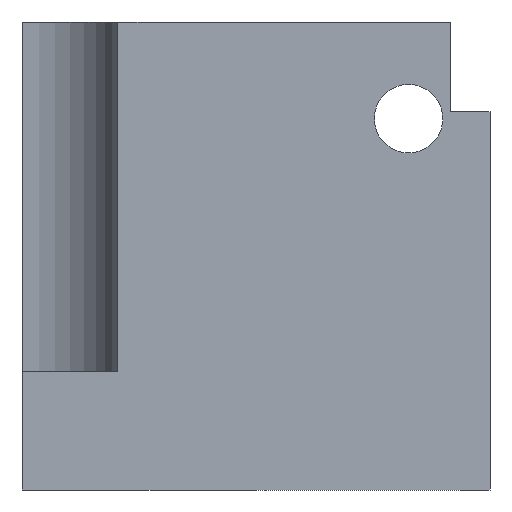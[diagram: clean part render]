
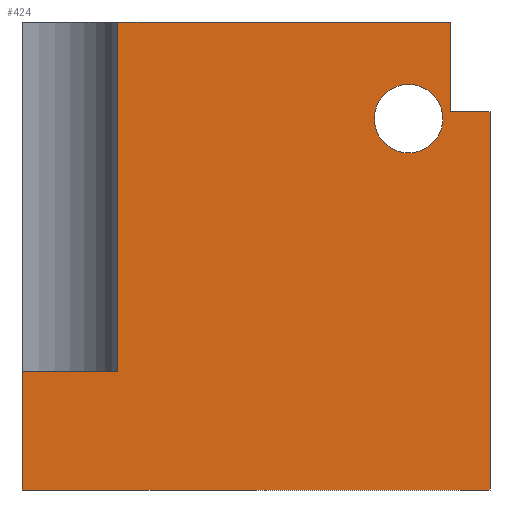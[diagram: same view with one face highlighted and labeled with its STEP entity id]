
A CAD part, left-side view. The second image highlights one B-rep face of the part: STEP entity #424.
In plain terms, the highlighted planar face has unit normal (-1, 0, 0).
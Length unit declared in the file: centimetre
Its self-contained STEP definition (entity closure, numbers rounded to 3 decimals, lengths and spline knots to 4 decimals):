
#16 = CARTESIAN_POINT ( 'NONE',  ( 0., 794.9523, 252.4905 ) ) ;
#18 = VERTEX_POINT ( 'NONE', #407 ) ;
#31 = DIRECTION ( 'NONE',  ( 0., -1., 0. ) ) ;
#34 = VECTOR ( 'NONE', #121, 100. ) ;
#36 = ORIENTED_EDGE ( 'NONE', *, *, #382, .T. ) ;
#53 = DIRECTION ( 'NONE',  ( 0., 0., -1. ) ) ;
#66 = CARTESIAN_POINT ( 'NONE',  ( 0., 1000., 0. ) ) ;
#68 = ORIENTED_EDGE ( 'NONE', *, *, #432, .F. ) ;
#72 = VERTEX_POINT ( 'NONE', #625 ) ;
#95 = ORIENTED_EDGE ( 'NONE', *, *, #324, .T. ) ;
#105 = VECTOR ( 'NONE', #31, 100. ) ;
#121 = DIRECTION ( 'NONE',  ( 0., 0., -1. ) ) ;
#126 = DIRECTION ( 'NONE',  ( 0., 0., -1. ) ) ;
#128 = DIRECTION ( 'NONE',  ( 0., -1., 0. ) ) ;
#130 = ORIENTED_EDGE ( 'NONE', *, *, #392, .F. ) ;
#131 = CARTESIAN_POINT ( 'NONE',  ( 0., 173.9357, 793.375 ) ) ;
#135 = CIRCLE ( 'NONE', #229, 73.1217 ) ;
#136 = CARTESIAN_POINT ( 'NONE',  ( 0., 1000., 252.4905 ) ) ;
#162 = VECTOR ( 'NONE', #128, 100. ) ;
#181 = PLANE ( 'NONE',  #622 ) ;
#186 = DIRECTION ( 'NONE',  ( 0., 0., -1. ) ) ;
#190 = DIRECTION ( 'NONE',  ( 0., 0., -1. ) ) ;
#193 = VERTEX_POINT ( 'NONE', #474 ) ;
#229 = AXIS2_PLACEMENT_3D ( 'NONE', #131, #462, #190 ) ;
#231 = DIRECTION ( 'NONE',  ( 0., -1., 0. ) ) ;
#248 = CARTESIAN_POINT ( 'NONE',  ( 0., 84.1514, 1000. ) ) ;
#251 = VECTOR ( 'NONE', #348, 100. ) ;
#257 = LINE ( 'NONE', #367, #496 ) ;
#259 = VERTEX_POINT ( 'NONE', #606 ) ;
#276 = VERTEX_POINT ( 'NONE', #485 ) ;
#284 = FACE_BOUND ( 'NONE', #299, .T. ) ;
#295 = FACE_OUTER_BOUND ( 'NONE', #649, .T. ) ;
#298 = CARTESIAN_POINT ( 'NONE',  ( 0., 1000., 1000. ) ) ;
#299 = EDGE_LOOP ( 'NONE', ( #690, #678 ) ) ;
#306 = DIRECTION ( 'NONE',  ( 0., 0., -1. ) ) ;
#313 = VECTOR ( 'NONE', #126, 100. ) ;
#324 = EDGE_CURVE ( 'NONE', #365, #468, #550, .T. ) ;
#339 = CARTESIAN_POINT ( 'NONE',  ( 0., 0., 0. ) ) ;
#340 = LINE ( 'NONE', #561, #313 ) ;
#348 = DIRECTION ( 'NONE',  ( 0., -1., 0. ) ) ;
#350 = VERTEX_POINT ( 'NONE', #393 ) ;
#365 = VERTEX_POINT ( 'NONE', #411 ) ;
#367 = CARTESIAN_POINT ( 'NONE',  ( 0., 0., 1000. ) ) ;
#374 = ORIENTED_EDGE ( 'NONE', *, *, #410, .F. ) ;
#382 = EDGE_CURVE ( 'NONE', #18, #517, #626, .T. ) ;
#384 = VECTOR ( 'NONE', #53, 100. ) ;
#390 = ORIENTED_EDGE ( 'NONE', *, *, #525, .F. ) ;
#392 = EDGE_CURVE ( 'NONE', #365, #533, #503, .T. ) ;
#393 = CARTESIAN_POINT ( 'NONE',  ( 0., 173.9357, 866.4967 ) ) ;
#399 = CARTESIAN_POINT ( 'NONE',  ( 0., 1000., 1000. ) ) ;
#406 = LINE ( 'NONE', #298, #34 ) ;
#407 = CARTESIAN_POINT ( 'NONE',  ( 0., 1000., 0. ) ) ;
#408 = CIRCLE ( 'NONE', #624, 73.1217 ) ;
#410 = EDGE_CURVE ( 'NONE', #259, #276, #569, .T. ) ;
#411 = CARTESIAN_POINT ( 'NONE',  ( 0., 794.9523, 1000. ) ) ;
#421 = DIRECTION ( 'NONE',  ( 0., 0., -1. ) ) ;
#424 = ADVANCED_FACE ( 'NONE', ( #284, #295 ), #181, .F. ) ;
#432 = EDGE_CURVE ( 'NONE', #533, #259, #340, .T. ) ;
#462 = DIRECTION ( 'NONE',  ( 1., 0., 0. ) ) ;
#466 = EDGE_CURVE ( 'NONE', #72, #18, #406, .T. ) ;
#468 = VERTEX_POINT ( 'NONE', #16 ) ;
#474 = CARTESIAN_POINT ( 'NONE',  ( 0., 173.9357, 720.2533 ) ) ;
#485 = CARTESIAN_POINT ( 'NONE',  ( 0., 0., 807.7521 ) ) ;
#496 = VECTOR ( 'NONE', #421, 100. ) ;
#503 = LINE ( 'NONE', #399, #251 ) ;
#514 = DIRECTION ( 'NONE',  ( 1., 0., 0. ) ) ;
#517 = VERTEX_POINT ( 'NONE', #339 ) ;
#522 = CARTESIAN_POINT ( 'NONE',  ( 0., 173.9357, 793.375 ) ) ;
#525 = EDGE_CURVE ( 'NONE', #276, #517, #257, .T. ) ;
#533 = VERTEX_POINT ( 'NONE', #248 ) ;
#550 = LINE ( 'NONE', #663, #384 ) ;
#561 = CARTESIAN_POINT ( 'NONE',  ( 0., 84.1514, 807.7521 ) ) ;
#569 = LINE ( 'NONE', #688, #162 ) ;
#572 = CARTESIAN_POINT ( 'NONE',  ( 0., 1000., 1000. ) ) ;
#578 = ORIENTED_EDGE ( 'NONE', *, *, #702, .F. ) ;
#589 = DIRECTION ( 'NONE',  ( 1., 0., 0. ) ) ;
#598 = VECTOR ( 'NONE', #231, 100. ) ;
#606 = CARTESIAN_POINT ( 'NONE',  ( 0., 84.1514, 807.7521 ) ) ;
#607 = EDGE_CURVE ( 'NONE', #193, #350, #408, .T. ) ;
#622 = AXIS2_PLACEMENT_3D ( 'NONE', #572, #514, #186 ) ;
#624 = AXIS2_PLACEMENT_3D ( 'NONE', #522, #589, #306 ) ;
#625 = CARTESIAN_POINT ( 'NONE',  ( 0., 1000., 252.4905 ) ) ;
#626 = LINE ( 'NONE', #66, #598 ) ;
#633 = LINE ( 'NONE', #136, #105 ) ;
#637 = ORIENTED_EDGE ( 'NONE', *, *, #466, .T. ) ;
#649 = EDGE_LOOP ( 'NONE', ( #130, #95, #578, #637, #36, #390, #374, #68 ) ) ;
#663 = CARTESIAN_POINT ( 'NONE',  ( 0., 794.9523, 252.4905 ) ) ;
#678 = ORIENTED_EDGE ( 'NONE', *, *, #697, .T. ) ;
#688 = CARTESIAN_POINT ( 'NONE',  ( 0., 0., 807.7521 ) ) ;
#690 = ORIENTED_EDGE ( 'NONE', *, *, #607, .T. ) ;
#697 = EDGE_CURVE ( 'NONE', #350, #193, #135, .T. ) ;
#702 = EDGE_CURVE ( 'NONE', #72, #468, #633, .T. ) ;
